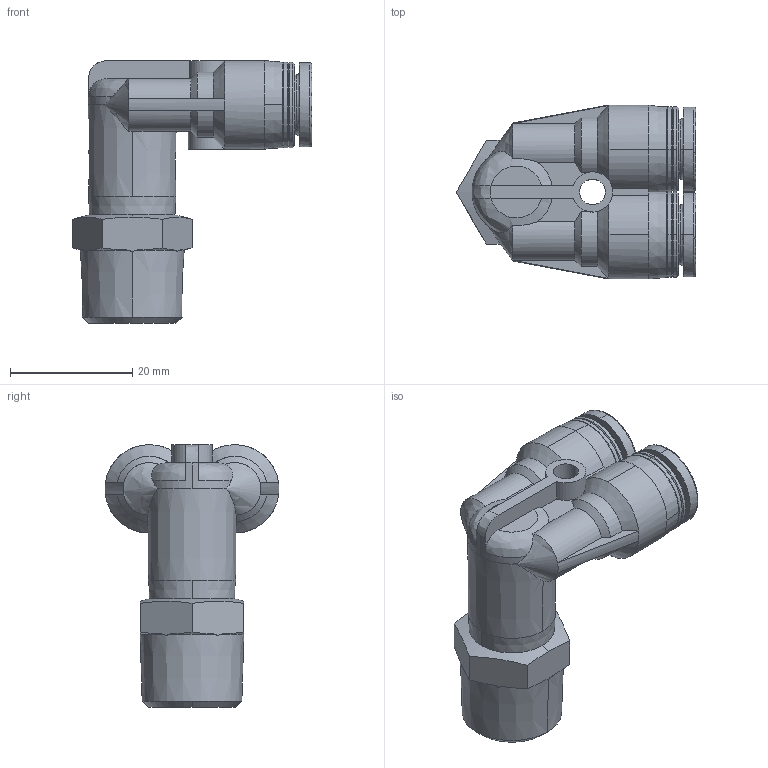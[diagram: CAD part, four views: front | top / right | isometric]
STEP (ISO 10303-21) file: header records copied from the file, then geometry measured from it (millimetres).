
FILE_DESCRIPTION (( 'STEP AP214' ), '1' );
FILE_NAME ('APAX8-03.STEP', '2019-12-05T03:42:16', ( '微软用户' ), ( '微软中国' ), 'SwSTEP 2.0', 'SolidWorks 2016', '' );
FILE_SCHEMA (( 'AUTOMOTIVE_DESIGN' ));
Length unit declared in the file: millimetre
Products named in the file (1): APAX8-03
Bounding box: 39.22 x 28.5 x 43.05 mm (x, y, z)
Volume: 12694.8 mm3; surface area: 6160.3 mm2
Topology: 1 solids, 1 shells, 149 faces, 373 edges, 232 vertices
Faces by surface type: cone 54, cylinder 46, plane 34, bspline 15
Entity records: 5592 total; most frequent: CARTESIAN_POINT 2131, ORIENTED_EDGE 742, DIRECTION 704, EDGE_CURVE 371, AXIS2_PLACEMENT_3D 295, VERTEX_POINT 232, CIRCLE 160, EDGE_LOOP 159
